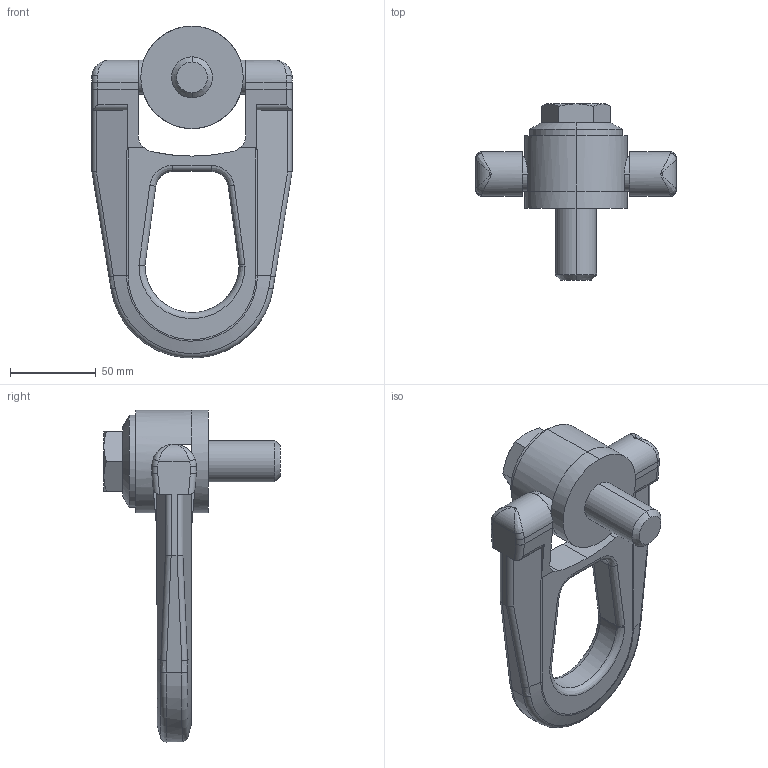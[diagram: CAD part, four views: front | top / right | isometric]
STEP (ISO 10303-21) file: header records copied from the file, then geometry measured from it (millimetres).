
FILE_DESCRIPTION (( 'STEP AP203' ), '1' );
FILE_NAME ('63200.W0024.step', '2013-12-13T15:23:39', ( 'User' ), ( '' ), 'SwSTEP 2.0', 'SolidWorks 2009', '' );
FILE_SCHEMA (( 'CONFIG_CONTROL_DESIGN' ));
Length unit declared in the file: millimetre
Products named in the file (3): Part1_63200.W0024; Part4; 63200.W0024
Assembly tree (2 placements, depth 2):
  63200.W0024
    Part1_63200.W0024
    Part4
Bounding box: 117 x 103 x 194 mm (x, y, z)
Volume: 346868.1 mm3; surface area: 58841.8 mm2
Topology: 2 solids, 2 shells, 141 faces, 353 edges, 217 vertices
Faces by surface type: cylinder 48, plane 47, bspline 26, cone 13, torus 7
Entity records: 7105 total; most frequent: CARTESIAN_POINT 3710, ORIENTED_EDGE 706, DIRECTION 583, EDGE_CURVE 353, AXIS2_PLACEMENT_3D 219, VERTEX_POINT 217, EDGE_LOOP 146, VECTOR 145
